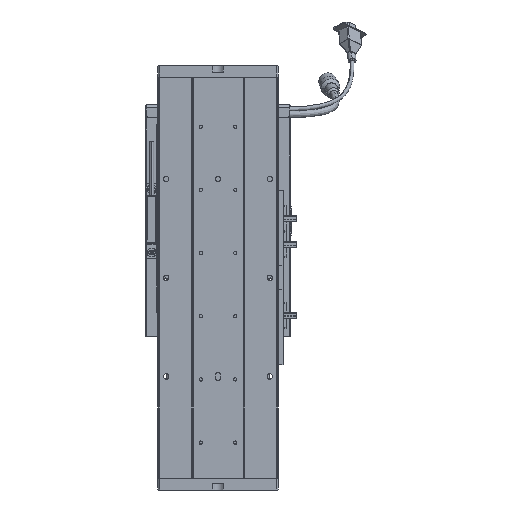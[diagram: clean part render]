
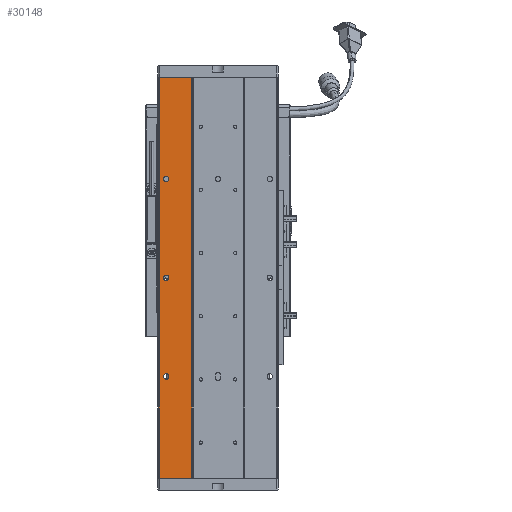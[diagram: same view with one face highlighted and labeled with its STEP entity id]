
A CAD part, front view. The second image highlights one B-rep face of the part: STEP entity #30148.
In plain terms, the highlighted planar face has unit normal (0, -1, 0).
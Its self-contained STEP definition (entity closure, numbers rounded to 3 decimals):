
#1613 = CARTESIAN_POINT ( 'NONE',  ( 95.718, 76.768, 406. ) ) ;
#2861 = CARTESIAN_POINT ( 'NONE',  ( 84.971, 76.768, 0. ) ) ;
#3287 = DIRECTION ( 'NONE',  ( 0., 0., 1. ) ) ;
#3300 = FACE_BOUND ( 'NONE', #17850, .T. ) ;
#4323 = AXIS2_PLACEMENT_3D ( 'NONE', #29314, #50717, #45031 ) ;
#6641 = CARTESIAN_POINT ( 'NONE',  ( 0., 76.768, 0. ) ) ;
#6839 = DIRECTION ( 'NONE',  ( 0., 0., 1. ) ) ;
#7008 = EDGE_CURVE ( 'NONE', #62954, #15032, #54090, .T. ) ;
#7241 = CARTESIAN_POINT ( 'NONE',  ( 95.718, 76.768, 406. ) ) ;
#7369 = FACE_OUTER_BOUND ( 'NONE', #45683, .T. ) ;
#7641 = VECTOR ( 'NONE', #19334, 1000. ) ;
#7666 = CIRCLE ( 'NONE', #37379, 2.75 ) ;
#7854 = VERTEX_POINT ( 'NONE', #31064 ) ;
#8091 = VERTEX_POINT ( 'NONE', #16279 ) ;
#8323 = DIRECTION ( 'NONE',  ( 0., 1., 0. ) ) ;
#8758 = EDGE_CURVE ( 'NONE', #24652, #20249, #53046, .T. ) ;
#9260 = CARTESIAN_POINT ( 'NONE',  ( 95.718, 76.768, 0. ) ) ;
#9557 = AXIS2_PLACEMENT_3D ( 'NONE', #19695, #34757, #61030 ) ;
#9740 = DIRECTION ( 'NONE',  ( 0., 1., 0. ) ) ;
#9754 = CIRCLE ( 'NONE', #9557, 2.75 ) ;
#9969 = CARTESIAN_POINT ( 'NONE',  ( 102.625, 76.768, 103. ) ) ;
#10011 = VECTOR ( 'NONE', #6839, 1000. ) ;
#11436 = VERTEX_POINT ( 'NONE', #42401 ) ;
#11524 = VERTEX_POINT ( 'NONE', #58846 ) ;
#12107 = AXIS2_PLACEMENT_3D ( 'NONE', #29470, #8323, #3287 ) ;
#12334 = CARTESIAN_POINT ( 'NONE',  ( 102.625, 76.768, 100.25 ) ) ;
#14358 = DIRECTION ( 'NONE',  ( 0., 0., 1. ) ) ;
#15032 = VERTEX_POINT ( 'NONE', #7241 ) ;
#15258 = CARTESIAN_POINT ( 'NONE',  ( 102.625, 76.768, 203. ) ) ;
#16100 = CIRCLE ( 'NONE', #12107, 2.75 ) ;
#16279 = CARTESIAN_POINT ( 'NONE',  ( 102.625, 76.768, 105.75 ) ) ;
#17850 = EDGE_LOOP ( 'NONE', ( #42892, #44955 ) ) ;
#19334 = DIRECTION ( 'NONE',  ( -1., 0., 0. ) ) ;
#19695 = CARTESIAN_POINT ( 'NONE',  ( 102.625, 76.768, 303. ) ) ;
#19697 = CIRCLE ( 'NONE', #4323, 2.75 ) ;
#20249 = VERTEX_POINT ( 'NONE', #33703 ) ;
#22213 = AXIS2_PLACEMENT_3D ( 'NONE', #15258, #25285, #14358 ) ;
#23394 = EDGE_CURVE ( 'NONE', #8091, #58092, #16100, .T. ) ;
#23552 = CARTESIAN_POINT ( 'NONE',  ( 102.625, 76.768, 200.25 ) ) ;
#23681 = ORIENTED_EDGE ( 'NONE', *, *, #64144, .T. ) ;
#24652 = VERTEX_POINT ( 'NONE', #29507 ) ;
#24958 = LINE ( 'NONE', #6641, #29841 ) ;
#25044 = CARTESIAN_POINT ( 'NONE',  ( 84.971, 76.768, 406. ) ) ;
#25285 = DIRECTION ( 'NONE',  ( 0., 1., 0. ) ) ;
#25360 = EDGE_LOOP ( 'NONE', ( #48412, #23681 ) ) ;
#26171 = EDGE_CURVE ( 'NONE', #11436, #7854, #41066, .T. ) ;
#29314 = CARTESIAN_POINT ( 'NONE',  ( 102.625, 76.768, 203. ) ) ;
#29378 = FACE_BOUND ( 'NONE', #25360, .T. ) ;
#29470 = CARTESIAN_POINT ( 'NONE',  ( 102.625, 76.768, 103. ) ) ;
#29507 = CARTESIAN_POINT ( 'NONE',  ( 128.625, 76.768, 406. ) ) ;
#29841 = VECTOR ( 'NONE', #58879, 1000. ) ;
#30148 = ADVANCED_FACE ( 'NONE', ( #3300, #64543, #29378, #7369 ), #59656, .F. ) ;
#31064 = CARTESIAN_POINT ( 'NONE',  ( 102.625, 76.768, 300.25 ) ) ;
#31206 = CARTESIAN_POINT ( 'NONE',  ( 128.625, 76.768, 406. ) ) ;
#31396 = CIRCLE ( 'NONE', #22213, 2.75 ) ;
#33703 = CARTESIAN_POINT ( 'NONE',  ( 128.625, 76.768, 0. ) ) ;
#34261 = VECTOR ( 'NONE', #52215, 1000. ) ;
#34757 = DIRECTION ( 'NONE',  ( 0., 1., 0. ) ) ;
#37379 = AXIS2_PLACEMENT_3D ( 'NONE', #9969, #9740, #46204 ) ;
#38740 = ORIENTED_EDGE ( 'NONE', *, *, #52164, .T. ) ;
#39478 = ORIENTED_EDGE ( 'NONE', *, *, #63834, .F. ) ;
#40637 = DIRECTION ( 'NONE',  ( 0., 1., 0. ) ) ;
#41066 = CIRCLE ( 'NONE', #47118, 2.75 ) ;
#42254 = ORIENTED_EDGE ( 'NONE', *, *, #65410, .T. ) ;
#42401 = CARTESIAN_POINT ( 'NONE',  ( 102.625, 76.768, 305.75 ) ) ;
#42892 = ORIENTED_EDGE ( 'NONE', *, *, #26171, .T. ) ;
#43653 = DIRECTION ( 'NONE',  ( 0., 1., 0. ) ) ;
#44955 = ORIENTED_EDGE ( 'NONE', *, *, #54761, .T. ) ;
#45031 = DIRECTION ( 'NONE',  ( 0., 0., 1. ) ) ;
#45683 = EDGE_LOOP ( 'NONE', ( #39478, #66139, #42254, #57110 ) ) ;
#46204 = DIRECTION ( 'NONE',  ( 0., 0., 1. ) ) ;
#46421 = EDGE_CURVE ( 'NONE', #11524, #63587, #19697, .T. ) ;
#47118 = AXIS2_PLACEMENT_3D ( 'NONE', #61226, #40637, #55945 ) ;
#48412 = ORIENTED_EDGE ( 'NONE', *, *, #46421, .T. ) ;
#50717 = DIRECTION ( 'NONE',  ( 0., 1., 0. ) ) ;
#52164 = EDGE_CURVE ( 'NONE', #58092, #8091, #7666, .T. ) ;
#52215 = DIRECTION ( 'NONE',  ( 0., 0., -1. ) ) ;
#53046 = LINE ( 'NONE', #31206, #34261 ) ;
#54090 = LINE ( 'NONE', #1613, #10011 ) ;
#54761 = EDGE_CURVE ( 'NONE', #7854, #11436, #9754, .T. ) ;
#55945 = DIRECTION ( 'NONE',  ( 0., 0., 1. ) ) ;
#57110 = ORIENTED_EDGE ( 'NONE', *, *, #7008, .F. ) ;
#57159 = EDGE_LOOP ( 'NONE', ( #64714, #38740 ) ) ;
#58092 = VERTEX_POINT ( 'NONE', #12334 ) ;
#58846 = CARTESIAN_POINT ( 'NONE',  ( 102.625, 76.768, 205.75 ) ) ;
#58879 = DIRECTION ( 'NONE',  ( -1., 0., 0. ) ) ;
#59656 = PLANE ( 'NONE',  #60915 ) ;
#59864 = LINE ( 'NONE', #25044, #7641 ) ;
#60915 = AXIS2_PLACEMENT_3D ( 'NONE', #2861, #43653, #64710 ) ;
#61030 = DIRECTION ( 'NONE',  ( 0., 0., 1. ) ) ;
#61226 = CARTESIAN_POINT ( 'NONE',  ( 102.625, 76.768, 303. ) ) ;
#62954 = VERTEX_POINT ( 'NONE', #9260 ) ;
#63587 = VERTEX_POINT ( 'NONE', #23552 ) ;
#63834 = EDGE_CURVE ( 'NONE', #20249, #62954, #24958, .T. ) ;
#64144 = EDGE_CURVE ( 'NONE', #63587, #11524, #31396, .T. ) ;
#64543 = FACE_BOUND ( 'NONE', #57159, .T. ) ;
#64710 = DIRECTION ( 'NONE',  ( 0., 0., 1. ) ) ;
#64714 = ORIENTED_EDGE ( 'NONE', *, *, #23394, .T. ) ;
#65410 = EDGE_CURVE ( 'NONE', #24652, #15032, #59864, .T. ) ;
#66139 = ORIENTED_EDGE ( 'NONE', *, *, #8758, .F. ) ;
